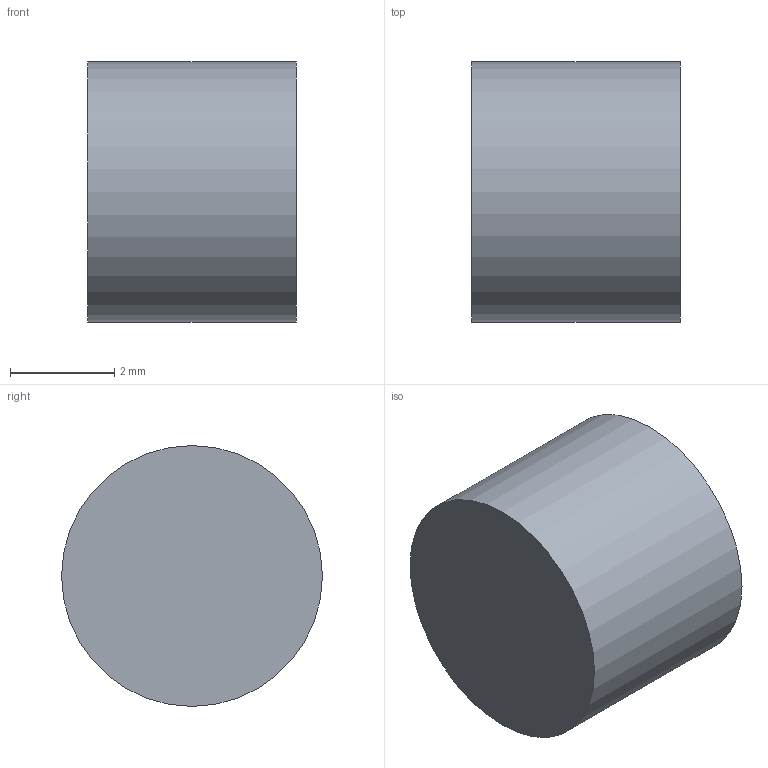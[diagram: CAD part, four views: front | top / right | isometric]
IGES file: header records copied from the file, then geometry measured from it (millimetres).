
Start section: Data from Parasolid IGES Translator 20.0.26, Copyright(c) 2006 Siemens P LM Software. All Rights Reserved.
Global section: file name: 9303930.igs; native system: By Siemens PLM Incorporated; preprocessor: XPlus GENERIC/IGES 20.0.26; author: Noname; organization: Noname; date: 20210922.163605; units: millimetre
Bounding box: 4 x 5 x 5 mm (x, y, z)
Surface area: 120.9 mm2 (no closed solid volume)
Topology: 0 solids, 0 shells, 10 faces, 42 edges, 40 vertices
Faces by surface type: extrusion 9, revolution 1
